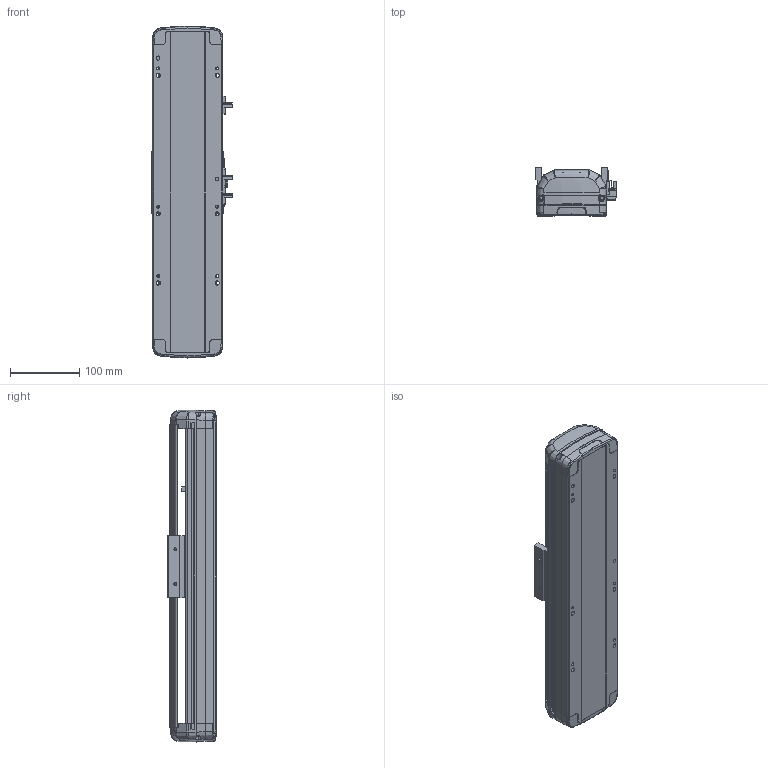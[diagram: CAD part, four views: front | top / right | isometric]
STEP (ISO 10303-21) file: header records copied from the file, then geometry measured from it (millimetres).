
FILE_DESCRIPTION (( 'STEP AP214' ), '1' );
FILE_NAME ('RTH10-XX-100-B-M10-C4.STEP', '2025-10-25T05:07:11', ( 'Microsoft' ), ( 'Microsoft' ), 'SwSTEP 2.0', 'SolidWorks 2018', '' );
FILE_SCHEMA (( 'AUTOMOTIVE_DESIGN' ));
Length unit declared in the file: millimetre
Products named in the file (7): N_RTH12-GY-001P^RTH10-XX-XX-B-M10-C4; N_RTH12-B-011P-臏倰第菁釱^RTH10-XX-XX-B-M10-C4; N_RTH12-GY-004-賑釱^RTH10-XX-XX-B-M10-C4; RTH10-XX-100-B-M10-C4; N_OMRON EE-SX672 传感器^RTH10-XX-XX-B-M10-C4; N_RTH13-L-012覜茼え俋离^RTH10-XX-XX-B-M10-C4; N_RTH12-B-007P-奻裔^RTH10-XX-XX-B-M10-C4
Assembly tree (9 placements, depth 2):
  RTH10-XX-100-B-M10-C4
    N_RTH12-B-011P-臏倰第菁釱^RTH10-XX-XX-B-M10-C4
    N_RTH13-L-012覜茼え俋离^RTH10-XX-XX-B-M10-C4
    N_OMRON EE-SX672 传感器^RTH10-XX-XX-B-M10-C4  x3
    N_RTH12-B-007P-奻裔^RTH10-XX-XX-B-M10-C4
    N_RTH12-GY-004-賑釱^RTH10-XX-XX-B-M10-C4
    N_RTH12-GY-001P^RTH10-XX-XX-B-M10-C4  x2
Bounding box: 116.5 x 70 x 479.61 mm (x, y, z)
Volume: 1853797.5 mm3; surface area: 337418.3 mm2
Topology: 7 solids, 11 shells, 2140 faces, 5968 edges, 3904 vertices
Faces by surface type: plane 1041, bspline 712, cylinder 367, cone 16, torus 4
Entity records: 47060 total; most frequent: CARTESIAN_POINT 20918, ORIENTED_EDGE 6064, DIRECTION 4156, EDGE_CURVE 3038, VERTEX_POINT 1991, VECTOR 1590, LINE 1590, AXIS2_PLACEMENT_3D 1283
